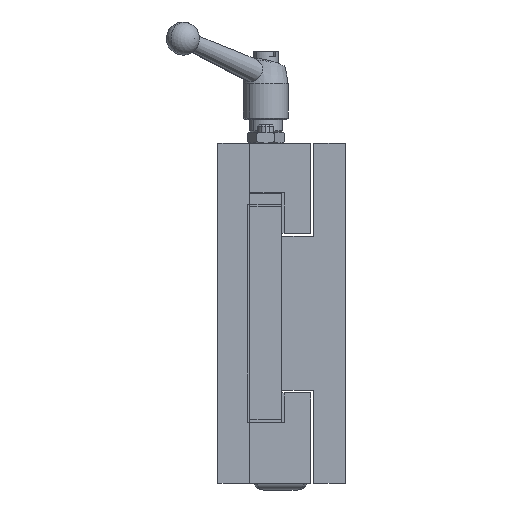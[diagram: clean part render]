
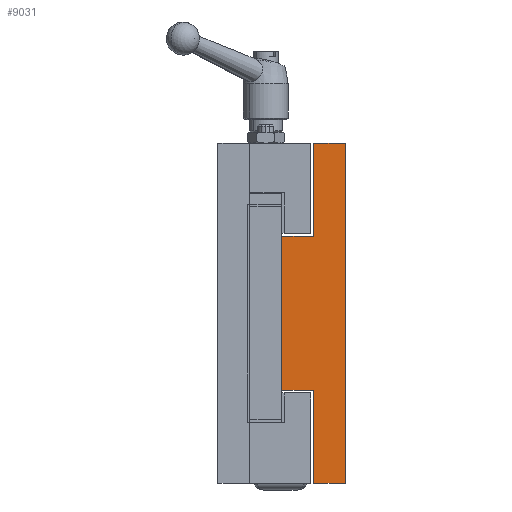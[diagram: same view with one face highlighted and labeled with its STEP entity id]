
A CAD part, left-side view. The second image highlights one B-rep face of the part: STEP entity #9031.
In plain terms, the highlighted planar face has unit normal (-1, 0, 0).
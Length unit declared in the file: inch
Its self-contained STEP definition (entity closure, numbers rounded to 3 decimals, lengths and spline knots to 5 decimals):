
#1262 = VECTOR ( 'NONE', #1371, 39.37008 ) ;
#1276 = VECTOR ( 'NONE', #1441, 39.37008 ) ;
#1279 = VECTOR ( 'NONE', #1436, 39.37008 ) ;
#1281 = VECTOR ( 'NONE', #1454, 39.37008 ) ;
#1284 = VECTOR ( 'NONE', #1449, 39.37008 ) ;
#1285 = VECTOR ( 'NONE', #1460, 39.37008 ) ;
#1286 = VECTOR ( 'NONE', #1465, 39.37008 ) ;
#1290 = VECTOR ( 'NONE', #1472, 39.37008 ) ;
#1347 = LINE ( 'NONE', #1367, #1262 ) ;
#1367 = CARTESIAN_POINT ( 'NONE',  ( 0., 0.75, 2. ) ) ;
#1371 = DIRECTION ( 'NONE',  ( 0., 0., 1. ) ) ;
#1396 = LINE ( 'NONE', #1438, #1276 ) ;
#1407 = LINE ( 'NONE', #1451, #1281 ) ;
#1430 = LINE ( 'NONE', #1434, #1279 ) ;
#1432 = LINE ( 'NONE', #1456, #1285 ) ;
#1434 = CARTESIAN_POINT ( 'NONE',  ( 0., 0.75, -0.90625 ) ) ;
#1436 = DIRECTION ( 'NONE',  ( 0., -1., 0. ) ) ;
#1438 = CARTESIAN_POINT ( 'NONE',  ( 0., 0.375, -2. ) ) ;
#1441 = DIRECTION ( 'NONE',  ( 0., 0., -1. ) ) ;
#1443 = LINE ( 'NONE', #1447, #1284 ) ;
#1445 = LINE ( 'NONE', #1462, #1286 ) ;
#1447 = CARTESIAN_POINT ( 'NONE',  ( 0., 0.75, -2. ) ) ;
#1449 = DIRECTION ( 'NONE',  ( 0., 1., 0. ) ) ;
#1451 = CARTESIAN_POINT ( 'NONE',  ( 0., 0., 2. ) ) ;
#1454 = DIRECTION ( 'NONE',  ( 0., 0., -1. ) ) ;
#1456 = CARTESIAN_POINT ( 'NONE',  ( 0., 0.75, 2. ) ) ;
#1460 = DIRECTION ( 'NONE',  ( 0., -1., 0. ) ) ;
#1462 = CARTESIAN_POINT ( 'NONE',  ( 0., 0.375, 2. ) ) ;
#1465 = DIRECTION ( 'NONE',  ( 0., 0., -1. ) ) ;
#1467 = LINE ( 'NONE', #1470, #1290 ) ;
#1470 = CARTESIAN_POINT ( 'NONE',  ( 0., 0.75, 0.90625 ) ) ;
#1472 = DIRECTION ( 'NONE',  ( 0., 1., 0. ) ) ;
#2116 = VERTEX_POINT ( 'NONE', #8773 ) ;
#2121 = VERTEX_POINT ( 'NONE', #8778 ) ;
#2123 = VERTEX_POINT ( 'NONE', #8780 ) ;
#2126 = VERTEX_POINT ( 'NONE', #8783 ) ;
#2129 = VERTEX_POINT ( 'NONE', #8786 ) ;
#2130 = VERTEX_POINT ( 'NONE', #8787 ) ;
#2134 = VERTEX_POINT ( 'NONE', #8791 ) ;
#2320 = PLANE ( 'NONE',  #2873 ) ;
#2322 = CARTESIAN_POINT ( 'NONE',  ( 0., 0., 2. ) ) ;
#2326 = FACE_OUTER_BOUND ( 'NONE', #5287, .T. ) ;
#2328 = DIRECTION ( 'NONE',  ( 1., 0., 0. ) ) ;
#2329 = DIRECTION ( 'NONE',  ( 0., 0., -1. ) ) ;
#2873 = AXIS2_PLACEMENT_3D ( 'NONE', #2322, #2328, #2329 ) ;
#3116 = VERTEX_POINT ( 'NONE', #8887 ) ;
#5287 = EDGE_LOOP ( 'NONE', ( #8424, #8425, #8440, #8423, #8427, #8426, #8443, #8431 ) ) ;
#8423 = ORIENTED_EDGE ( 'NONE', *, *, #9387, .F. ) ;
#8424 = ORIENTED_EDGE ( 'NONE', *, *, #9384, .T. ) ;
#8425 = ORIENTED_EDGE ( 'NONE', *, *, #9385, .T. ) ;
#8426 = ORIENTED_EDGE ( 'NONE', *, *, #9389, .T. ) ;
#8427 = ORIENTED_EDGE ( 'NONE', *, *, #9388, .F. ) ;
#8431 = ORIENTED_EDGE ( 'NONE', *, *, #9374, .F. ) ;
#8440 = ORIENTED_EDGE ( 'NONE', *, *, #9386, .F. ) ;
#8443 = ORIENTED_EDGE ( 'NONE', *, *, #9390, .T. ) ;
#8773 = CARTESIAN_POINT ( 'NONE',  ( 0., 0.75, -0.90625 ) ) ;
#8778 = CARTESIAN_POINT ( 'NONE',  ( 0., 0.75, 0.90625 ) ) ;
#8780 = CARTESIAN_POINT ( 'NONE',  ( 0., 0., 2. ) ) ;
#8783 = CARTESIAN_POINT ( 'NONE',  ( 0., 0.375, -0.90625 ) ) ;
#8786 = CARTESIAN_POINT ( 'NONE',  ( 0., 0.375, 2. ) ) ;
#8787 = CARTESIAN_POINT ( 'NONE',  ( 0., 0.375, -2. ) ) ;
#8791 = CARTESIAN_POINT ( 'NONE',  ( 0., 0.375, 0.90625 ) ) ;
#8887 = CARTESIAN_POINT ( 'NONE',  ( 0., 0., -2. ) ) ;
#9031 = ADVANCED_FACE ( 'NONE', ( #2326 ), #2320, .F. ) ;
#9374 = EDGE_CURVE ( 'NONE', #2116, #2121, #1347, .T. ) ;
#9384 = EDGE_CURVE ( 'NONE', #2116, #2126, #1430, .T. ) ;
#9385 = EDGE_CURVE ( 'NONE', #2126, #2130, #1396, .T. ) ;
#9386 = EDGE_CURVE ( 'NONE', #3116, #2130, #1443, .T. ) ;
#9387 = EDGE_CURVE ( 'NONE', #2123, #3116, #1407, .T. ) ;
#9388 = EDGE_CURVE ( 'NONE', #2129, #2123, #1432, .T. ) ;
#9389 = EDGE_CURVE ( 'NONE', #2129, #2134, #1445, .T. ) ;
#9390 = EDGE_CURVE ( 'NONE', #2134, #2121, #1467, .T. ) ;
